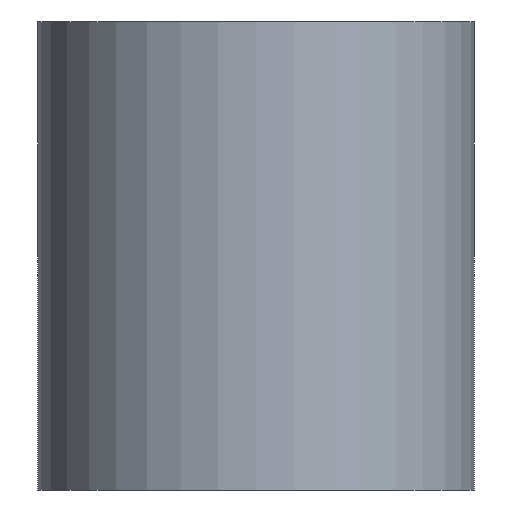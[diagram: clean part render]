
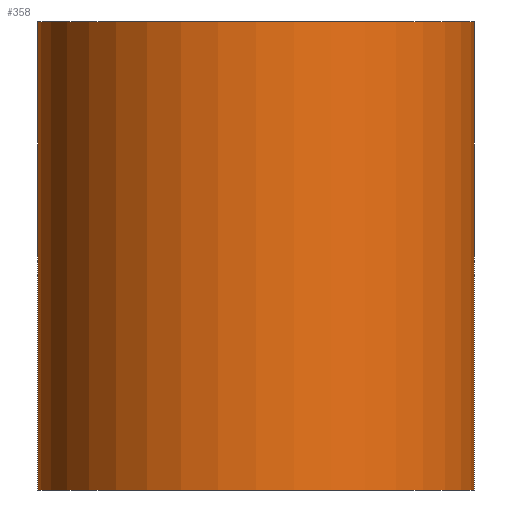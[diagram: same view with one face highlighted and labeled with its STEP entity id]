
A CAD part, front view. The second image highlights one B-rep face of the part: STEP entity #358.
In plain terms, the highlighted cylindrical face has radius 7 mm (diameter 14 mm), a full revolution.
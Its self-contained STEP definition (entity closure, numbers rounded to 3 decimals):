
#254=CARTESIAN_POINT('',(0.0,0.0,0.0));
#255=DIRECTION('',(0.0,0.0,1.0));
#256=DIRECTION('',(-1.0,0.0,0.0));
#257=AXIS2_PLACEMENT_3D('',#254,#255,#256);
#258=CYLINDRICAL_SURFACE('',#257,7.);
#259=CARTESIAN_POINT('',(7.,0.,7.5));
#260=VERTEX_POINT('',#259);
#261=CARTESIAN_POINT('',(0.0,0.0,7.5));
#262=DIRECTION('',(0.0,0.0,-1.0));
#263=DIRECTION('',(-1.0,0.0,0.0));
#264=AXIS2_PLACEMENT_3D('',#261,#262,#263);
#265=CIRCLE('',#264,7.);
#266=EDGE_CURVE('',#260,#260,#265,.T.);
#267=ORIENTED_EDGE('',*,*,#266,.T.);
#268=EDGE_LOOP('',(#267));
#269=FACE_OUTER_BOUND('',#268,.T.);
#270=CARTESIAN_POINT('',(7.,0.,-7.5));
#271=VERTEX_POINT('',#270);
#272=CARTESIAN_POINT('',(0.0,0.0,-7.5));
#273=DIRECTION('',(0.0,0.0,1.0));
#274=DIRECTION('',(-1.0,0.0,0.0));
#275=AXIS2_PLACEMENT_3D('',#272,#273,#274);
#276=CIRCLE('',#275,7.);
#277=EDGE_CURVE('',#271,#271,#276,.T.);
#278=ORIENTED_EDGE('',*,*,#277,.T.);
#279=EDGE_LOOP('',(#278));
#280=FACE_BOUND('',#279,.T.);
#281=CARTESIAN_POINT('',(-3.6,6.003,0.0));
#282=VERTEX_POINT('',#281);
#283=CARTESIAN_POINT('',(-3.6,6.003,0.0));
#284=CARTESIAN_POINT('',(-3.6,6.003,0.409));
#285=CARTESIAN_POINT('',(-3.527,6.049,0.836));
#286=CARTESIAN_POINT('',(-3.382,6.129,1.235));
#287=CARTESIAN_POINT('',(-3.247,6.203,1.602));
#288=CARTESIAN_POINT('',(-3.052,6.305,1.946));
#289=CARTESIAN_POINT('',(-2.818,6.408,2.24));
#290=CARTESIAN_POINT('',(-2.652,6.481,2.449));
#291=CARTESIAN_POINT('',(-2.472,6.553,2.631));
#292=CARTESIAN_POINT('',(-2.265,6.624,2.799));
#293=CARTESIAN_POINT('',(-1.93,6.738,3.069));
#294=CARTESIAN_POINT('',(-1.529,6.845,3.29));
#295=CARTESIAN_POINT('',(-1.101,6.913,3.427));
#296=CARTESIAN_POINT('',(-0.78,6.964,3.531));
#297=CARTESIAN_POINT('',(-0.445,6.993,3.587));
#298=CARTESIAN_POINT('',(-0.119,6.999,3.598));
#299=CARTESIAN_POINT('',(0.073,7.002,3.604));
#300=CARTESIAN_POINT('',(0.263,6.998,3.596));
#301=CARTESIAN_POINT('',(0.457,6.985,3.571));
#302=CARTESIAN_POINT('',(0.902,6.956,3.514));
#303=CARTESIAN_POINT('',(1.347,6.881,3.369));
#304=CARTESIAN_POINT('',(1.741,6.78,3.151));
#305=CARTESIAN_POINT('',(2.006,6.712,3.004));
#306=CARTESIAN_POINT('',(2.249,6.633,2.826));
#307=CARTESIAN_POINT('',(2.458,6.554,2.63));
#308=CARTESIAN_POINT('',(2.575,6.51,2.521));
#309=CARTESIAN_POINT('',(2.683,6.466,2.405));
#310=CARTESIAN_POINT('',(2.787,6.421,2.279));
#311=CARTESIAN_POINT('',(3.073,6.297,1.929));
#312=CARTESIAN_POINT('',(3.304,6.173,1.506));
#313=CARTESIAN_POINT('',(3.442,6.095,1.055));
#314=CARTESIAN_POINT('',(3.534,6.043,0.756));
#315=CARTESIAN_POINT('',(3.586,6.012,0.444));
#316=CARTESIAN_POINT('',(3.597,6.005,0.139));
#317=CARTESIAN_POINT('',(3.606,6.,-0.078));
#318=CARTESIAN_POINT('',(3.595,6.007,-0.293));
#319=CARTESIAN_POINT('',(3.563,6.025,-0.512));
#320=CARTESIAN_POINT('',(3.499,6.063,-0.961));
#321=CARTESIAN_POINT('',(3.345,6.154,-1.405));
#322=CARTESIAN_POINT('',(3.12,6.266,-1.796));
#323=CARTESIAN_POINT('',(2.978,6.337,-2.042));
#324=CARTESIAN_POINT('',(2.81,6.414,-2.267));
#325=CARTESIAN_POINT('',(2.625,6.489,-2.463));
#326=CARTESIAN_POINT('',(2.515,6.534,-2.581));
#327=CARTESIAN_POINT('',(2.399,6.578,-2.69));
#328=CARTESIAN_POINT('',(2.271,6.621,-2.794));
#329=CARTESIAN_POINT('',(1.934,6.737,-3.067));
#330=CARTESIAN_POINT('',(1.53,6.845,-3.29));
#331=CARTESIAN_POINT('',(1.099,6.913,-3.428));
#332=CARTESIAN_POINT('',(0.782,6.964,-3.53));
#333=CARTESIAN_POINT('',(0.452,6.993,-3.586));
#334=CARTESIAN_POINT('',(0.13,6.999,-3.598));
#335=CARTESIAN_POINT('',(-0.079,7.003,-3.605));
#336=CARTESIAN_POINT('',(-0.287,6.997,-3.595));
#337=CARTESIAN_POINT('',(-0.498,6.982,-3.565));
#338=CARTESIAN_POINT('',(-0.927,6.952,-3.506));
#339=CARTESIAN_POINT('',(-1.355,6.879,-3.363));
#340=CARTESIAN_POINT('',(-1.735,6.782,-3.154));
#341=CARTESIAN_POINT('',(-2.011,6.711,-3.002));
#342=CARTESIAN_POINT('',(-2.263,6.628,-2.816));
#343=CARTESIAN_POINT('',(-2.478,6.547,-2.611));
#344=CARTESIAN_POINT('',(-2.611,6.496,-2.485));
#345=CARTESIAN_POINT('',(-2.733,6.446,-2.35));
#346=CARTESIAN_POINT('',(-2.848,6.394,-2.202));
#347=CARTESIAN_POINT('',(-3.113,6.276,-1.859));
#348=CARTESIAN_POINT('',(-3.324,6.162,-1.452));
#349=CARTESIAN_POINT('',(-3.452,6.09,-1.022));
#350=CARTESIAN_POINT('',(-3.551,6.033,-0.686));
#351=CARTESIAN_POINT('',(-3.6,6.003,-0.337));
#352=CARTESIAN_POINT('',(-3.6,6.003,0.));
#353=B_SPLINE_CURVE_WITH_KNOTS('',3,(#283,#284,#285,#286,#287,#288,#289,#290,#291,#292,#293,#294,#295,#296,#297,#298,#299,#300,#301,#302,#303,#304,#305,#306,#307,#308,#309,#310,#311,#312,#313,#314,#315,#316,#317,#318,#319,#320,#321,#322,#323,#324,#325,#326,#327,#328,#329,#330,#331,#332,#333,#334,#335,#336,#337,#338,#339,#340,#341,#342,#343,#344,#345,#346,#347,#348,#349,#350,#351,#352),.UNSPECIFIED.,.T.,.U.,(4,3,3,3,3,3,3,3,3,3,3,3,3,3,3,3,3,3,3,3,3,3,3,4),(0.0,0.123,0.236,0.316,0.445,0.542,0.599,0.73,0.818,0.868,1.004,1.095,1.159,1.291,1.374,1.424,1.554,1.65,1.712,1.838,1.93,1.986,2.116,2.217),.UNSPECIFIED.);
#354=EDGE_CURVE('',#282,#282,#353,.T.);
#355=ORIENTED_EDGE('',*,*,#354,.F.);
#356=EDGE_LOOP('',(#355));
#357=FACE_BOUND('',#356,.T.);
#358=ADVANCED_FACE('',(#269,#280,#357),#258,.T.);
